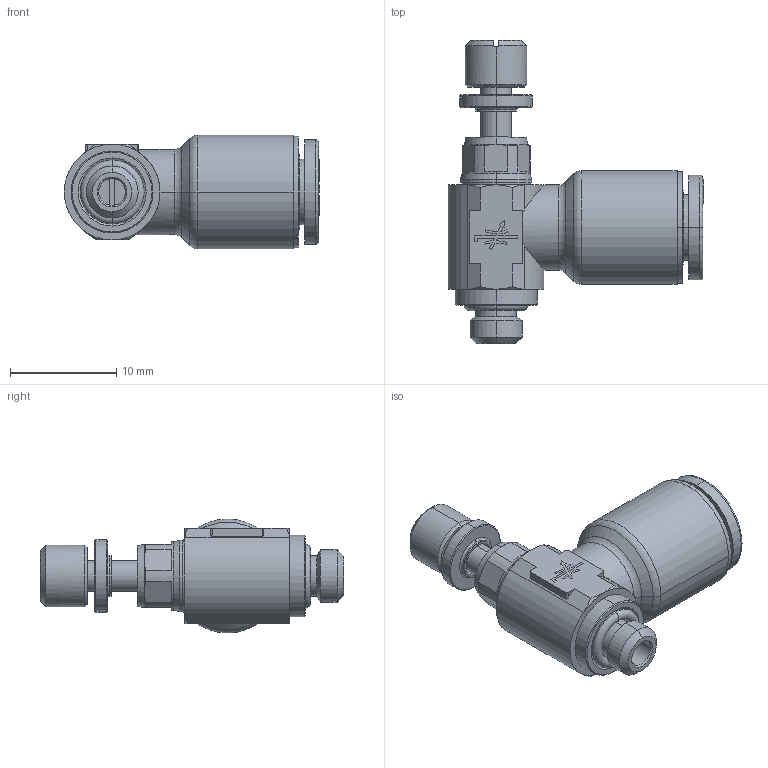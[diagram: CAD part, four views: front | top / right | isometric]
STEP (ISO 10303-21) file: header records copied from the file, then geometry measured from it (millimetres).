
FILE_DESCRIPTION (( 'STEP AP214' ), '1' );
FILE_NAME ('5695500002.STEP', '2016-05-23T11:29:40', ( '' ), ( '' ), 'SwSTEP 2.0', 'SolidWorks 2016', '' );
FILE_SCHEMA (( 'AUTOMOTIVE_DESIGN' ));
Length unit declared in the file: millimetre
Products named in the file (1): 5695500002
Bounding box: 23.98 x 28.47 x 10.7 mm (x, y, z)
Surface area: 1852.7 mm2 (no closed solid volume)
Topology: 0 solids, 15 shells, 290 faces, 937 edges, 638 vertices
Faces by surface type: plane 139, cone 48, bspline 45, cylinder 44, torus 14
Entity records: 14978 total; most frequent: CARTESIAN_POINT 4000, ORIENTED_EDGE 1600, DIRECTION 1438, EDGE_CURVE 937, VERTEX_POINT 638, LINE 538, VECTOR 538, AXIS2_PLACEMENT_3D 450
